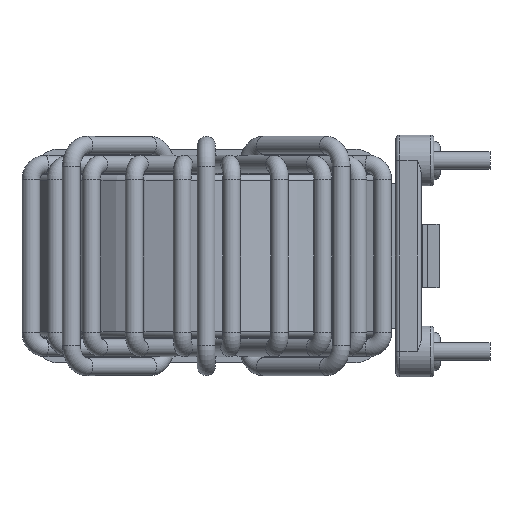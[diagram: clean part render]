
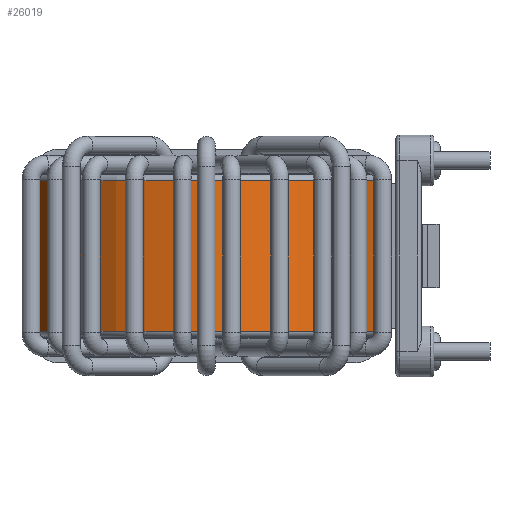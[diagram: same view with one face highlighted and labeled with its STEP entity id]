
A CAD part, left-side view. The second image highlights one B-rep face of the part: STEP entity #26019.
In plain terms, the highlighted cylindrical face has radius 14.2 mm (diameter 28.4 mm), a full revolution.
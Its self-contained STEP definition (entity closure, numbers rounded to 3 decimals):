
#649=FACE_BOUND('',#4387,.T.);
#650=FACE_BOUND('',#4388,.T.);
#778=CYLINDRICAL_SURFACE('',#27510,14.2);
#1979=CIRCLE('',#27487,14.2);
#1980=CIRCLE('',#27489,14.2);
#1981=CIRCLE('',#27491,14.2);
#1982=CIRCLE('',#27493,14.2);
#1993=CIRCLE('',#27508,14.2);
#1995=CIRCLE('',#27511,14.2);
#1996=CIRCLE('',#27512,14.2);
#3024=FACE_OUTER_BOUND('',#4386,.T.);
#4386=EDGE_LOOP('',(#16742,#16743,#16744,#16745,#16746));
#4387=EDGE_LOOP('',(#16747,#16748,#16749,#16750));
#4388=EDGE_LOOP('',(#16751,#16752,#16753,#16754));
#5858=LINE('',#36728,#7802);
#5865=LINE('',#36745,#7809);
#5873=LINE('',#36763,#7817);
#5880=LINE('',#36778,#7824);
#5891=LINE('',#36835,#7835);
#7802=VECTOR('',#29742,10.);
#7809=VECTOR('',#29757,10.);
#7817=VECTOR('',#29773,10.);
#7824=VECTOR('',#29788,10.);
#7835=VECTOR('',#29873,14.2);
#9817=VERTEX_POINT('',#36721);
#9820=VERTEX_POINT('',#36726);
#9823=VERTEX_POINT('',#36738);
#9826=VERTEX_POINT('',#36743);
#9829=VERTEX_POINT('',#36756);
#9832=VERTEX_POINT('',#36761);
#9835=VERTEX_POINT('',#36774);
#9836=VERTEX_POINT('',#36776);
#9843=VERTEX_POINT('',#36828);
#9844=VERTEX_POINT('',#36832);
#9845=VERTEX_POINT('',#36833);
#12513=EDGE_CURVE('',#9820,#9817,#5858,.T.);
#12522=EDGE_CURVE('',#9826,#9823,#5865,.T.);
#12532=EDGE_CURVE('',#9832,#9829,#5873,.T.);
#12541=EDGE_CURVE('',#9836,#9835,#5880,.T.);
#12553=EDGE_CURVE('',#9836,#9829,#1979,.T.);
#12554=EDGE_CURVE('',#9832,#9835,#1980,.T.);
#12555=EDGE_CURVE('',#9826,#9817,#1981,.T.);
#12556=EDGE_CURVE('',#9820,#9823,#1982,.T.);
#12568=EDGE_CURVE('',#9843,#9843,#1993,.T.);
#12570=EDGE_CURVE('',#9844,#9845,#1995,.T.);
#12571=EDGE_CURVE('',#9844,#9843,#5891,.T.);
#12572=EDGE_CURVE('',#9845,#9844,#1996,.T.);
#16742=ORIENTED_EDGE('',*,*,#12570,.F.);
#16743=ORIENTED_EDGE('',*,*,#12571,.T.);
#16744=ORIENTED_EDGE('',*,*,#12568,.F.);
#16745=ORIENTED_EDGE('',*,*,#12571,.F.);
#16746=ORIENTED_EDGE('',*,*,#12572,.F.);
#16747=ORIENTED_EDGE('',*,*,#12556,.T.);
#16748=ORIENTED_EDGE('',*,*,#12522,.F.);
#16749=ORIENTED_EDGE('',*,*,#12555,.T.);
#16750=ORIENTED_EDGE('',*,*,#12513,.F.);
#16751=ORIENTED_EDGE('',*,*,#12554,.T.);
#16752=ORIENTED_EDGE('',*,*,#12541,.F.);
#16753=ORIENTED_EDGE('',*,*,#12553,.T.);
#16754=ORIENTED_EDGE('',*,*,#12532,.F.);
#26019=ADVANCED_FACE('',(#3024,#649,#650),#778,.T.);
#27487=AXIS2_PLACEMENT_3D('',#36802,#29822,#29823);
#27489=AXIS2_PLACEMENT_3D('',#36804,#29826,#29827);
#27491=AXIS2_PLACEMENT_3D('',#36806,#29830,#29831);
#27493=AXIS2_PLACEMENT_3D('',#36808,#29834,#29835);
#27508=AXIS2_PLACEMENT_3D('',#36829,#29865,#29866);
#27510=AXIS2_PLACEMENT_3D('',#36831,#29869,#29870);
#27511=AXIS2_PLACEMENT_3D('',#36834,#29871,#29872);
#27512=AXIS2_PLACEMENT_3D('',#36836,#29874,#29875);
#29742=DIRECTION('',(0.,0.,-1.));
#29757=DIRECTION('',(0.,0.,1.));
#29773=DIRECTION('',(0.,0.,-1.));
#29788=DIRECTION('',(0.,0.,1.));
#29822=DIRECTION('center_axis',(0.,0.,
-1.));
#29823=DIRECTION('ref_axis',(0.,1.,0.));
#29826=DIRECTION('center_axis',(0.,0.,
1.));
#29827=DIRECTION('ref_axis',(0.,1.,0.));
#29830=DIRECTION('center_axis',(0.,0.,
-1.));
#29831=DIRECTION('ref_axis',(0.,1.,0.));
#29834=DIRECTION('center_axis',(0.,0.,
1.));
#29835=DIRECTION('ref_axis',(0.,1.,0.));
#29865=DIRECTION('center_axis',(0.,0.,
1.));
#29866=DIRECTION('ref_axis',(0.,1.,0.));
#29869=DIRECTION('center_axis',(0.,0.,
-1.));
#29870=DIRECTION('ref_axis',(0.,1.,0.));
#29871=DIRECTION('center_axis',(0.,0.,
-1.));
#29872=DIRECTION('ref_axis',(0.,1.,0.));
#29873=DIRECTION('',(0.,0.,1.));
#29874=DIRECTION('center_axis',(0.,0.,
-1.));
#29875=DIRECTION('ref_axis',(0.,1.,0.));
#36721=CARTESIAN_POINT('',(-4.83,3.497,-5.7));
#36726=CARTESIAN_POINT('',(-4.83,3.497,5.7));
#36728=CARTESIAN_POINT('',(-4.83,3.497,5.2));
#36738=CARTESIAN_POINT('',(-2.898,2.949,5.7));
#36743=CARTESIAN_POINT('',(-2.898,2.949,-5.7));
#36745=CARTESIAN_POINT('',(-2.898,2.949,5.2));
#36756=CARTESIAN_POINT('',(2.898,2.949,-5.7));
#36761=CARTESIAN_POINT('',(2.898,2.949,5.7));
#36763=CARTESIAN_POINT('',(2.898,2.949,5.2));
#36774=CARTESIAN_POINT('',(4.83,3.497,5.7));
#36776=CARTESIAN_POINT('',(4.83,3.497,-5.7));
#36778=CARTESIAN_POINT('',(4.83,3.497,5.2));
#36802=CARTESIAN_POINT('Origin',(0.,16.85,-5.7));
#36804=CARTESIAN_POINT('Origin',(0.,16.85,5.7));
#36806=CARTESIAN_POINT('Origin',(0.,16.85,-5.7));
#36808=CARTESIAN_POINT('Origin',(0.,16.85,5.7));
#36828=CARTESIAN_POINT('',(0.,2.65,5.9));
#36829=CARTESIAN_POINT('Origin',(0.,16.85,5.9));
#36831=CARTESIAN_POINT('Origin',(0.,16.85,5.2));
#36832=CARTESIAN_POINT('',(0.,2.65,-5.9));
#36833=CARTESIAN_POINT('',(0.,31.05,-5.9));
#36834=CARTESIAN_POINT('Origin',(0.,16.85,-5.9));
#36835=CARTESIAN_POINT('',(0.,2.65,5.2));
#36836=CARTESIAN_POINT('Origin',(0.,16.85,-5.9));
